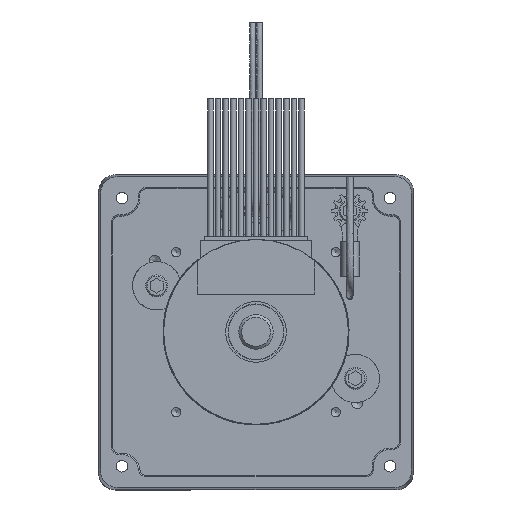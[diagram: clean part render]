
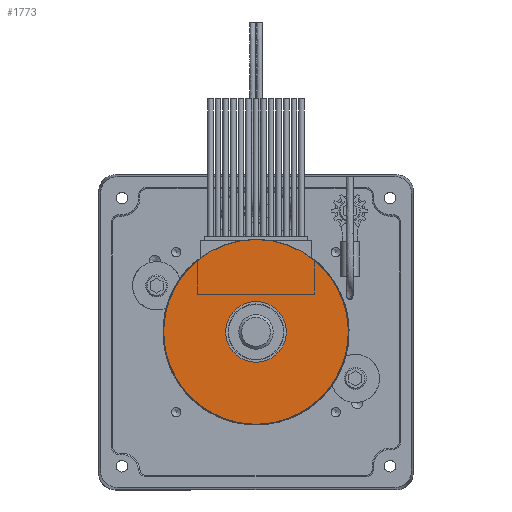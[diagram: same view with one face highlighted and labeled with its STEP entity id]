
A CAD part, top view. The second image highlights one B-rep face of the part: STEP entity #1773.
In plain terms, the highlighted planar face has unit normal (0, 0, 1).
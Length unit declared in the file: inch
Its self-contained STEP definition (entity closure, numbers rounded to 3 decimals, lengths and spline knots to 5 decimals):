
#123=CARTESIAN_POINT('',(0.22,0.,4.0545));
#124=VERTEX_POINT('',#123);
#125=CARTESIAN_POINT('',(0.0,0.0,4.0545));
#126=DIRECTION('',(0.0,0.0,-1.0));
#127=DIRECTION('',(-1.0,0.0,0.0));
#128=AXIS2_PLACEMENT_3D('',#125,#126,#127);
#129=CIRCLE('',#128,0.22);
#130=EDGE_CURVE('',#124,#124,#129,.T.);
#1738=CARTESIAN_POINT('',(0.67,0.,4.0545));
#1739=VERTEX_POINT('',#1738);
#1740=CARTESIAN_POINT('',(0.0,0.0,4.0545));
#1741=DIRECTION('',(0.0,0.0,-1.0));
#1742=DIRECTION('',(-1.0,0.0,0.0));
#1743=AXIS2_PLACEMENT_3D('',#1740,#1741,#1742);
#1744=CIRCLE('',#1743,0.67);
#1745=EDGE_CURVE('',#1739,#1739,#1744,.T.);
#1762=CARTESIAN_POINT('',(0.0,0.0,4.0545));
#1763=DIRECTION('',(0.0,0.0,-1.0));
#1764=DIRECTION('',(-1.0,0.0,0.0));
#1765=AXIS2_PLACEMENT_3D('',#1762,#1763,#1764);
#1766=PLANE('',#1765);
#1767=ORIENTED_EDGE('',*,*,#1745,.F.);
#1768=EDGE_LOOP('',(#1767));
#1769=FACE_OUTER_BOUND('',#1768,.T.);
#1770=ORIENTED_EDGE('',*,*,#130,.T.);
#1771=EDGE_LOOP('',(#1770));
#1772=FACE_BOUND('',#1771,.T.);
#1773=ADVANCED_FACE('',(#1769,#1772),#1766,.F.);
